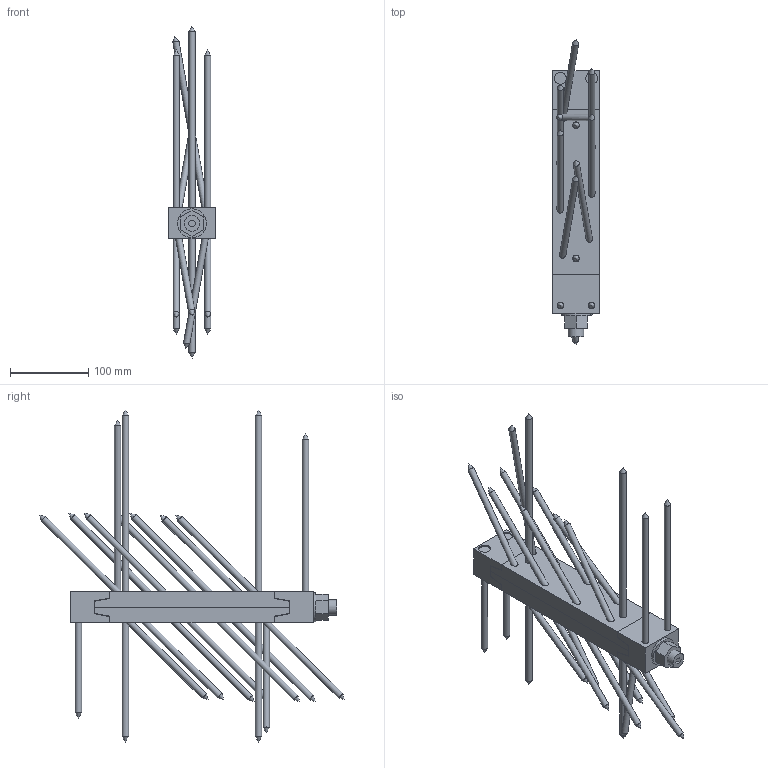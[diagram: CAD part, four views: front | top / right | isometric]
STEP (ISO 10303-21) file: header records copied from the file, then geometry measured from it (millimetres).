
FILE_DESCRIPTION(/* description */ ('Unknown'),/* implementation_level */ '2;1');
FILE_NAME(/* name */ 'MEGANT_310x60x40_Sichtbar',/* time_stamp */ '2023-11-09T15:23:05+01:00',/* author */ ('Unknown'),/* organization */ ('Unknown'),/* preprocessor_version */ 'ST-DEVELOPER v18.104',/* originating_system */ 'Solid Edge',/* authorisation */ 'Unknown');
FILE_SCHEMA (('AUTOMOTIVE_DESIGN {1 0 10303 214 3 1 1}'));
Length unit declared in the file: millimetre
Products named in the file (14): MEGANT_310x60x40_Sichtbar; Verbinderplatte_250x60x20_HT; Verbinderplatte_250x60x20; SK_Schraube_8x160; Verbinderplatte_250x60x20_NT; SK_Schraube_8x240; Spannbacke_oben_60x50x40_NT; Spannbacke_oben_60x50x40; Spannbacke_unten_60x50x40_HT; Spannbacke_unten_60x50x40; Gewindestange_M20_L340; Mutter_M20; Beilagscheibe_M20
Assembly tree (36 placements, depth 3):
  MEGANT_310x60x40_Sichtbar
    Verbinderplatte_250x60x20_HT
      Verbinderplatte_250x60x20
      SK_Schraube_8x160  x10
    Verbinderplatte_250x60x20_NT
      Verbinderplatte_250x60x20
      SK_Schraube_8x160  x7
      SK_Schraube_8x240  x3
    Spannbacke_oben_60x50x40_NT
      Spannbacke_oben_60x50x40
      SK_Schraube_8x240  x2
    Spannbacke_unten_60x50x40_HT
      Spannbacke_unten_60x50x40
      SK_Schraube_8x160  x2
    Gewindestange_M20_L340
      Gewindestange_M20_L340
      Mutter_M20
      Beilagscheibe_M20
Bounding box: 60 x 388.97 x 424 mm (x, y, z)
Volume: 883136.6 mm3; surface area: 278902.4 mm2
Topology: 31 solids, 31 shells, 341 faces, 795 edges, 501 vertices
Faces by surface type: plane 159, cylinder 110, cone 72
Full cylindrical faces by diameter (mm): 8 x24, 8.5 x24, 15 x48, 17.294 x1, 19.294 x1, 20 x1, 21 x2, 37 x1
Entity records: 4777 total; most frequent: DIRECTION 766, CARTESIAN_POINT 717, ORIENTED_EDGE 604, EDGE_CURVE 302, AXIS2_PLACEMENT_3D 277, FACE_BOUND 246, EDGE_LOOP 244, VERTEX_POINT 228
